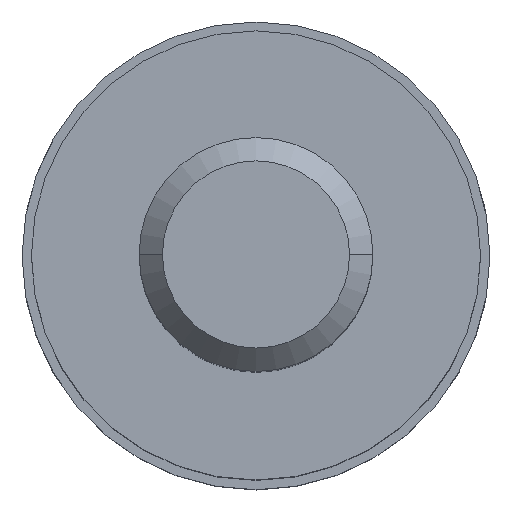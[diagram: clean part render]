
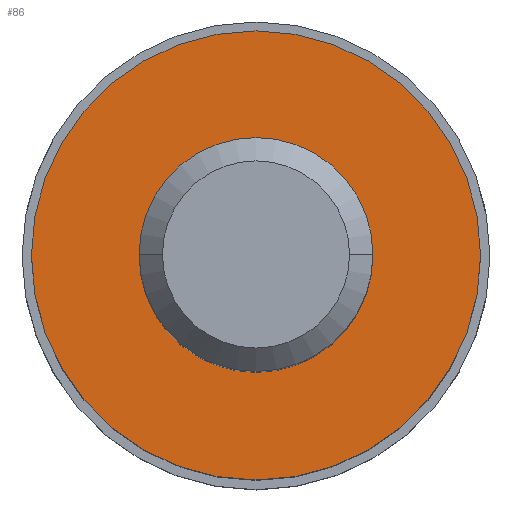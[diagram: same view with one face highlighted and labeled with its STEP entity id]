
A CAD part, top view. The second image highlights one B-rep face of the part: STEP entity #86.
In plain terms, the highlighted planar face has unit normal (0, 0, 1).
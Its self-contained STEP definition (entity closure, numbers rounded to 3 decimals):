
#7 = ORIENTED_EDGE ( 'NONE', *, *, #137, .F. ) ;
#10 = EDGE_LOOP ( 'NONE', ( #360, #293 ) ) ;
#18 = CARTESIAN_POINT ( 'NONE',  ( 0., 0., -24. ) ) ;
#31 = CARTESIAN_POINT ( 'NONE',  ( 9.6, 0., -24. ) ) ;
#35 = AXIS2_PLACEMENT_3D ( 'NONE', #488, #341, #483 ) ;
#37 = CARTESIAN_POINT ( 'NONE',  ( 0., 0., -24. ) ) ;
#41 = CIRCLE ( 'NONE', #479, 5. ) ;
#65 = CIRCLE ( 'NONE', #35, 5. ) ;
#75 = CARTESIAN_POINT ( 'NONE',  ( -9.6, 0., -24. ) ) ;
#86 = ADVANCED_FACE ( 'NONE', ( #143, #495 ), #337, .T. ) ;
#98 = VERTEX_POINT ( 'NONE', #307 ) ;
#100 = CARTESIAN_POINT ( 'NONE',  ( 0., 0., -24. ) ) ;
#117 = AXIS2_PLACEMENT_3D ( 'NONE', #37, #380, #496 ) ;
#130 = AXIS2_PLACEMENT_3D ( 'NONE', #225, #182, #310 ) ;
#136 = VERTEX_POINT ( 'NONE', #386 ) ;
#137 = EDGE_CURVE ( 'NONE', #163, #251, #478, .T. ) ;
#143 = FACE_BOUND ( 'NONE', #10, .T. ) ;
#163 = VERTEX_POINT ( 'NONE', #31 ) ;
#175 = EDGE_CURVE ( 'NONE', #251, #163, #486, .T. ) ;
#182 = DIRECTION ( 'NONE',  ( 0., 0., 1. ) ) ;
#225 = CARTESIAN_POINT ( 'NONE',  ( 0., 9.6, -24. ) ) ;
#251 = VERTEX_POINT ( 'NONE', #75 ) ;
#254 = DIRECTION ( 'NONE',  ( -1., 0., 0. ) ) ;
#273 = AXIS2_PLACEMENT_3D ( 'NONE', #100, #319, #315 ) ;
#293 = ORIENTED_EDGE ( 'NONE', *, *, #327, .T. ) ;
#303 = ORIENTED_EDGE ( 'NONE', *, *, #175, .F. ) ;
#307 = CARTESIAN_POINT ( 'NONE',  ( -5., 0., -24. ) ) ;
#310 = DIRECTION ( 'NONE',  ( 1., 0., 0. ) ) ;
#315 = DIRECTION ( 'NONE',  ( -1., 0., 0. ) ) ;
#319 = DIRECTION ( 'NONE',  ( 0., 0., -1. ) ) ;
#327 = EDGE_CURVE ( 'NONE', #136, #98, #65, .T. ) ;
#337 = PLANE ( 'NONE',  #130 ) ;
#341 = DIRECTION ( 'NONE',  ( 0., 0., -1. ) ) ;
#360 = ORIENTED_EDGE ( 'NONE', *, *, #405, .T. ) ;
#376 = DIRECTION ( 'NONE',  ( 0., 0., -1. ) ) ;
#380 = DIRECTION ( 'NONE',  ( 0., 0., -1. ) ) ;
#386 = CARTESIAN_POINT ( 'NONE',  ( 5., 0., -24. ) ) ;
#405 = EDGE_CURVE ( 'NONE', #98, #136, #41, .T. ) ;
#437 = EDGE_LOOP ( 'NONE', ( #303, #7 ) ) ;
#478 = CIRCLE ( 'NONE', #273, 9.6 ) ;
#479 = AXIS2_PLACEMENT_3D ( 'NONE', #18, #376, #254 ) ;
#483 = DIRECTION ( 'NONE',  ( -1., 0., 0. ) ) ;
#486 = CIRCLE ( 'NONE', #117, 9.6 ) ;
#488 = CARTESIAN_POINT ( 'NONE',  ( 0., 0., -24. ) ) ;
#495 = FACE_OUTER_BOUND ( 'NONE', #437, .T. ) ;
#496 = DIRECTION ( 'NONE',  ( -1., 0., 0. ) ) ;
